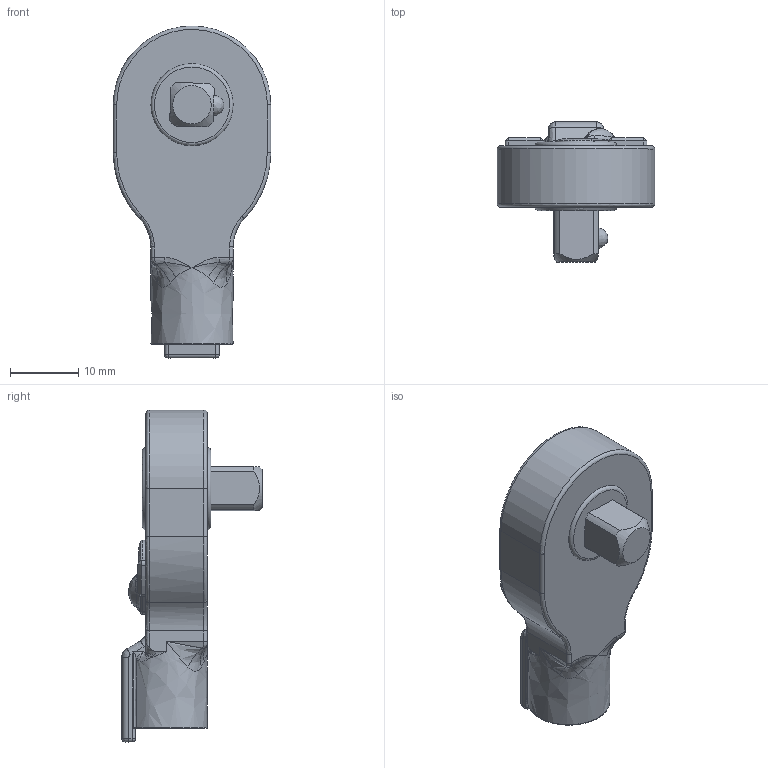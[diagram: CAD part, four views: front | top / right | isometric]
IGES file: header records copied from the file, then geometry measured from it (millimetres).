
Global section: file name: 00T23357A QH8D_Shrinkwrap_1; native system: Autodesk Inventor 2016; preprocessor: unknown; author: Q600; date: 20151016.125724; units: millimetre
Bounding box: 23 x 20.5 x 48.5 mm (x, y, z)
Volume: 7283 mm3; surface area: 3187.5 mm2
Topology: 1 solids, 1 shells, 169 faces, 416 edges, 232 vertices
Faces by surface type: bspline 169
